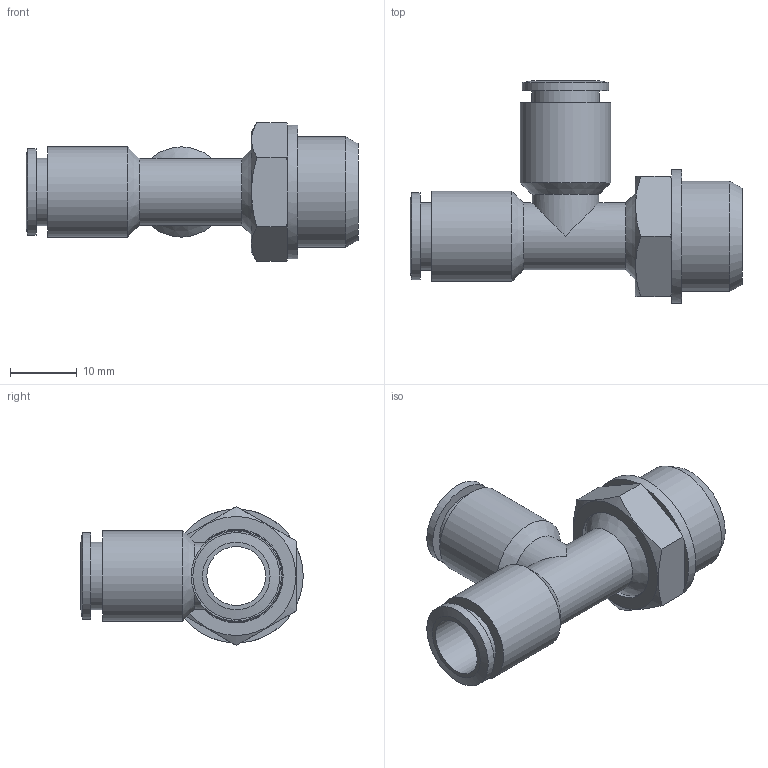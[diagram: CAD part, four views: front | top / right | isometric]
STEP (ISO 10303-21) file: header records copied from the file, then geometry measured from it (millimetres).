
FILE_DESCRIPTION((''),'2;1');
FILE_NAME('C:\Documents and Settings\rivolro1\Documenti\copia di Raccordi\PLASTICA\T21XXXX\T210838.stp','2007-11-02T08:39:48',('Rivolro1'),(''),'Autodesk Inventor 2008','Autodesk Inventor 2008','');
FILE_SCHEMA(('AUTOMOTIVE_DESIGN { 1 0 10303 214 1 1 1 1 }'));
Length unit declared in the file: millimetre
Products named in the file (1): T210838
Bounding box: 49.65 x 33.25 x 20.78 mm (x, y, z)
Volume: 5689 mm3; surface area: 5772.7 mm2
Topology: 1 solids, 1 shells, 50 faces, 101 edges, 62 vertices
Faces by surface type: plane 22, cone 13, cylinder 13, bspline 2
Full cylindrical faces by diameter (mm): 10 x2, 10.1 x2, 13 x2, 13.5 x2, 13.8 x1, 14 x1, 16.5 x1, 20 x1
Entity records: 1314 total; most frequent: CARTESIAN_POINT 319, DIRECTION 196, ORIENTED_EDGE 150, AXIS2_PLACEMENT_3D 92, EDGE_LOOP 82, EDGE_CURVE 75, VERTEX_POINT 57, FACE_OUTER_BOUND 50
